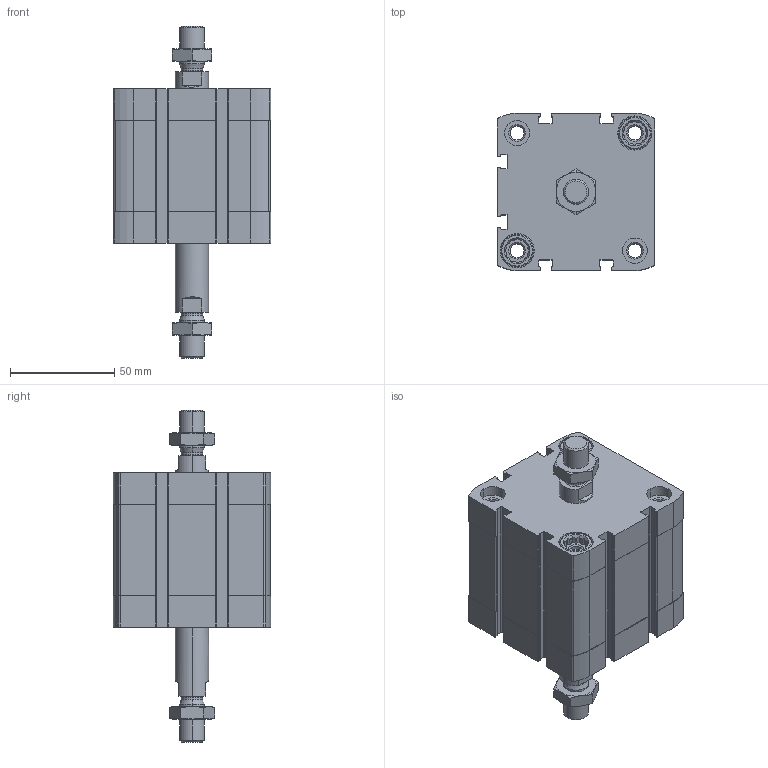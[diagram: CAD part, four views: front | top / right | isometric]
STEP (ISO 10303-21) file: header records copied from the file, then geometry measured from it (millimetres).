
FILE_DESCRIPTION (( 'STEP AP203' ), '1' );
FILE_NAME ('CCN63-25-P.STEP', '2020-06-22T19:01:42', ( '' ), ( '' ), 'SwSTEP 2.0', 'SolidWorks 2019', '' );
FILE_SCHEMA (( 'CONFIG_CONTROL_DESIGN' ));
Length unit declared in the file: millimetre
Products named in the file (1): CCN63-25-P
Bounding box: 75.5 x 75.5 x 159.4 mm (x, y, z)
Volume: 328854.4 mm3; surface area: 81554.3 mm2
Topology: 4 solids, 4 shells, 528 faces, 1396 edges, 908 vertices
Faces by surface type: plane 240, cylinder 220, cone 60, torus 8
Entity records: 17259 total; most frequent: CARTESIAN_POINT 3829, DIRECTION 2850, ORIENTED_EDGE 2792, EDGE_CURVE 1396, AXIS2_PLACEMENT_3D 1049, VERTEX_POINT 908, LINE 752, VECTOR 752
